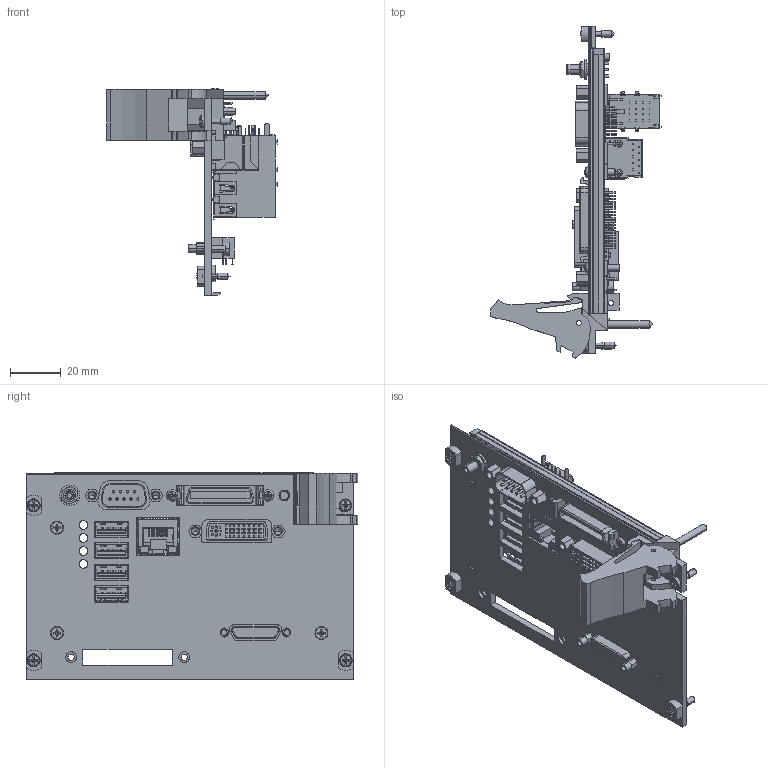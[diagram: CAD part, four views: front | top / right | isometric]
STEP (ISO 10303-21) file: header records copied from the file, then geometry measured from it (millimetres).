
FILE_DESCRIPTION((''),'2;1');
FILE_NAME('CU_PXIE-8108-SW','2014-10-01T',('gvillanu'),(''),'PRO/ENGINEER BY PARAMETRIC TECHNOLOGY CORPORATION, 2014000','PRO/ENGINEER BY PARAMETRIC TECHNOLOGY CORPORATION, 2014000','');
FILE_SCHEMA(('CONFIG_CONTROL_DESIGN'));
Length unit declared in the file: inch
Products named in the file (1): CU_PXIE-8108-SW
Bounding box: 66.93 x 130.52 x 81.27 mm (x, y, z)
Surface area: 49680.6 mm2 (no closed solid volume)
Topology: 0 solids, 49 shells, 2612 faces, 7392 edges, 4922 vertices
Faces by surface type: plane 1811, cylinder 666, cone 64, bspline 28, torus 17, extrusion 14, sphere 12
Entity records: 85359 total; most frequent: CARTESIAN_POINT 17283, DIRECTION 14012, ORIENTED_EDGE 13418, EDGE_CURVE 7363, VECTOR 5346, LINE 5332, VERTEX_POINT 4922, AXIS2_PLACEMENT_3D 4333
